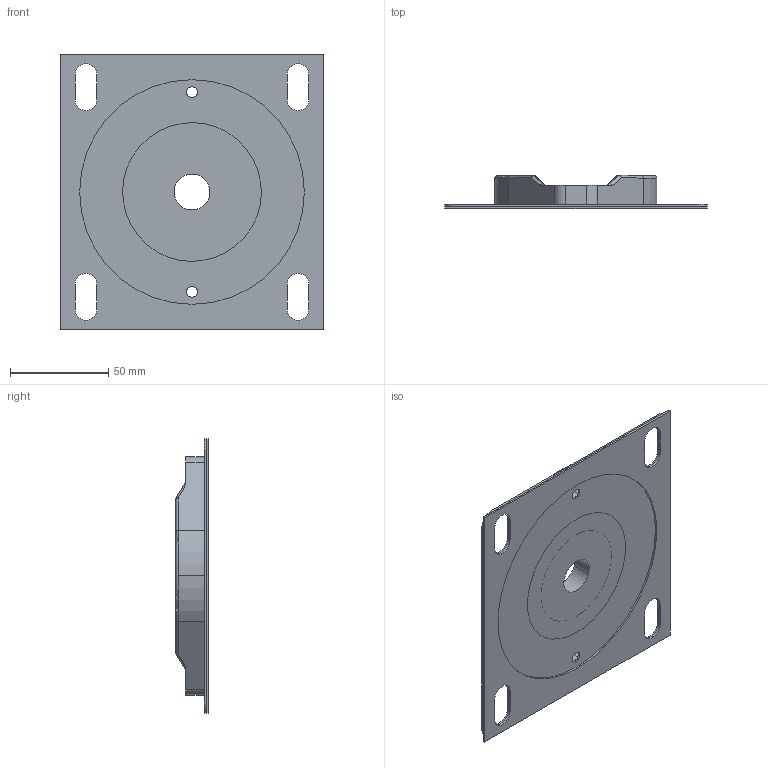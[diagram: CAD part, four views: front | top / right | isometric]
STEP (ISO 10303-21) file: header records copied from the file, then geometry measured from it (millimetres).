
FILE_DESCRIPTION (( 'STEP AP203' ), '1' );
FILE_NAME ('SLF-012T.STEP', '2014-10-29T19:58:16', ( '' ), ( '' ), 'SwSTEP 2.0', 'SolidWorks 2014', '' );
FILE_SCHEMA (( 'CONFIG_CONTROL_DESIGN' ));
Length unit declared in the file: inch
Products named in the file (1): SLF-012T
Bounding box: 133.35 x 16.64 x 139.7 mm (x, y, z)
Surface area: 68437.4 mm2 (no closed solid volume)
Topology: 0 solids, 4 shells, 152 faces, 403 edges, 254 vertices
Faces by surface type: cylinder 78, plane 51, bspline 8, torus 7, cone 4, sphere 4
Entity records: 5017 total; most frequent: CARTESIAN_POINT 1126, DIRECTION 826, ORIENTED_EDGE 769, EDGE_CURVE 399, AXIS2_PLACEMENT_3D 306, VERTEX_POINT 254, VECTOR 214, LINE 214
